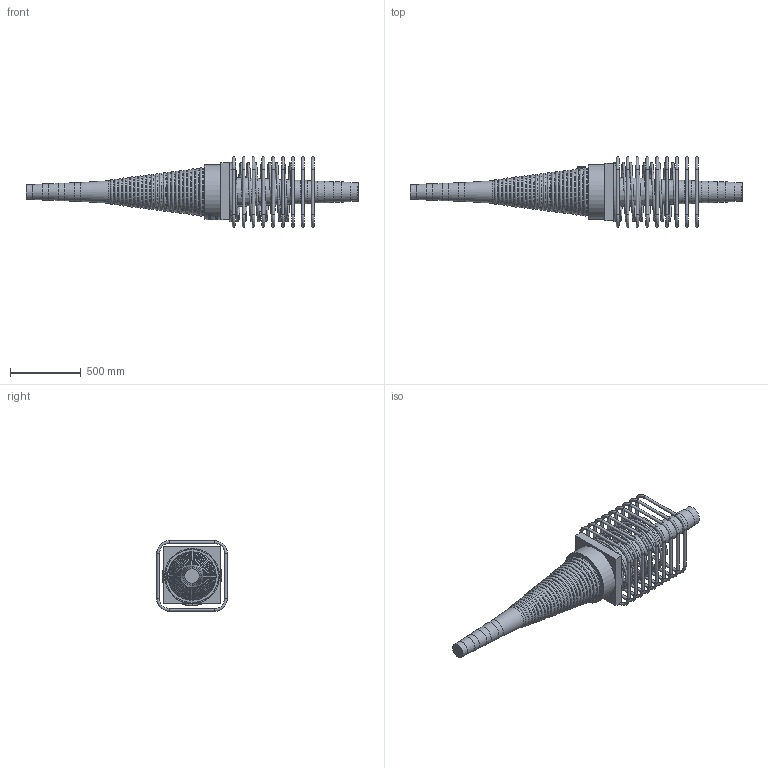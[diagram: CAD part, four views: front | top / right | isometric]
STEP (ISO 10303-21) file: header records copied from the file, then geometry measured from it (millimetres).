
FILE_DESCRIPTION(/* description */ (''),/* implementation_level */ '2;1');
FILE_NAME(/* name */ 'Z:\04 Publications\05 Give-out\BBR\6_3D_Models\BBR VT CONA CMI\BBR VT CONA CMI SP\02506\BBR VT CONA CMI SP 2506_Couler K Assembly_CS-34,28.stp',/* time_stamp */ '2017-05-09T09:58:05+02:00',/* author */ ('IP'),/* organization */ (''),/* preprocessor_version */ 'ST-DEVELOPER v16.1',/* originating_system */ 'Autodesk Inventor 2016',/* authorisation */ '');
FILE_SCHEMA (('AUTOMOTIVE_DESIGN { 1 0 10303 214 3 1 1 }'));
Products named in the file (1): BBR VT CONA CMI SP 2506_Couler K Assembly_CS-34,28
Bounding box: 2349.52 x 500 x 500 mm (x, y, z)
Volume: 95363859.8 mm3; surface area: 3409661.5 mm2
Topology: 11 solids, 11 shells, 930 faces, 2377 edges, 1518 vertices
Faces by surface type: bspline 411, plane 254, torus 120, cylinder 107, cone 30, sphere 8
Full cylindrical faces by diameter (mm): 20 x36, 34.089 x1, 57.089 x1, 104 x1, 114 x1, 124 x1, 134 x1, 375 x1, 390 x1
Entity records: 41526 total; most frequent: CARTESIAN_POINT 21912, ORIENTED_EDGE 4374, DIRECTION 2884, EDGE_CURVE 2186, VERTEX_POINT 1513, EDGE_LOOP 1186, AXIS2_PLACEMENT_3D 1002, FACE_OUTER_BOUND 930
